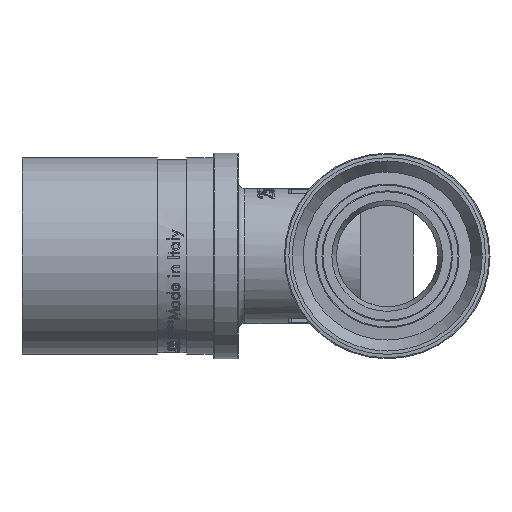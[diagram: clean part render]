
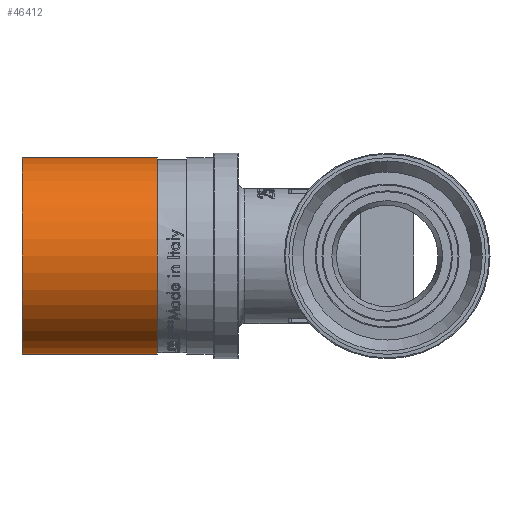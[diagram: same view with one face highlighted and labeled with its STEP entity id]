
A CAD part, left-side view. The second image highlights one B-rep face of the part: STEP entity #46412.
In plain terms, the highlighted cylindrical face has radius 14.925 mm (diameter 29.85 mm), a full revolution.
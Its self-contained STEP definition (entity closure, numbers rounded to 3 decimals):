
#4561=CYLINDRICAL_SURFACE('',#48707,14.925);
#6474=FACE_OUTER_BOUND('',#9227,.T.);
#9227=EDGE_LOOP('',(#39317,#39318,#39319,#39320,#39321,#39322));
#12434=LINE('',#93193,#15564);
#15564=VECTOR('',#55105,14.925);
#16999=CIRCLE('',#48703,14.925);
#17000=CIRCLE('',#48704,14.925);
#17003=CIRCLE('',#48708,14.925);
#17004=CIRCLE('',#48709,14.925);
#20926=VERTEX_POINT('',#93180);
#20927=VERTEX_POINT('',#93181);
#20930=VERTEX_POINT('',#93189);
#20931=VERTEX_POINT('',#93190);
#27342=EDGE_CURVE('',#20926,#20927,#16999,.T.);
#27343=EDGE_CURVE('',#20927,#20926,#17000,.T.);
#27346=EDGE_CURVE('',#20930,#20931,#17003,.T.);
#27347=EDGE_CURVE('',#20931,#20930,#17004,.T.);
#27348=EDGE_CURVE('',#20931,#20927,#12434,.T.);
#39317=ORIENTED_EDGE('',*,*,#27346,.F.);
#39318=ORIENTED_EDGE('',*,*,#27347,.F.);
#39319=ORIENTED_EDGE('',*,*,#27348,.T.);
#39320=ORIENTED_EDGE('',*,*,#27343,.T.);
#39321=ORIENTED_EDGE('',*,*,#27342,.T.);
#39322=ORIENTED_EDGE('',*,*,#27348,.F.);
#46412=ADVANCED_FACE('',(#6474),#4561,.T.);
#48703=AXIS2_PLACEMENT_3D('',#93182,#55091,#55092);
#48704=AXIS2_PLACEMENT_3D('',#93183,#55093,#55094);
#48707=AXIS2_PLACEMENT_3D('',#93188,#55099,#55100);
#48708=AXIS2_PLACEMENT_3D('',#93191,#55101,#55102);
#48709=AXIS2_PLACEMENT_3D('',#93192,#55103,#55104);
#55091=DIRECTION('center_axis',(0.,-1.,0.));
#55092=DIRECTION('ref_axis',(0.,0.,-1.));
#55093=DIRECTION('center_axis',(0.,-1.,0.));
#55094=DIRECTION('ref_axis',(0.,0.,-1.));
#55099=DIRECTION('center_axis',(0.,-1.,0.));
#55100=DIRECTION('ref_axis',(1.,0.,0.));
#55101=DIRECTION('center_axis',(0.,-1.,0.));
#55102=DIRECTION('ref_axis',(0.,0.,-1.));
#55103=DIRECTION('center_axis',(0.,-1.,0.));
#55104=DIRECTION('ref_axis',(0.,0.,-1.));
#55105=DIRECTION('',(0.,1.,0.));
#93180=CARTESIAN_POINT('',(14.925,55.412,0.));
#93181=CARTESIAN_POINT('',(-14.925,55.412,0.));
#93182=CARTESIAN_POINT('Origin',(0.,55.412,
0.));
#93183=CARTESIAN_POINT('Origin',(0.,55.412,
0.));
#93188=CARTESIAN_POINT('Origin',(0.,45.162,
0.));
#93189=CARTESIAN_POINT('',(14.925,34.912,0.));
#93190=CARTESIAN_POINT('',(-14.925,34.912,0.));
#93191=CARTESIAN_POINT('Origin',(0.,34.912,
0.));
#93192=CARTESIAN_POINT('Origin',(0.,34.912,
0.));
#93193=CARTESIAN_POINT('',(-14.925,45.162,0.));
